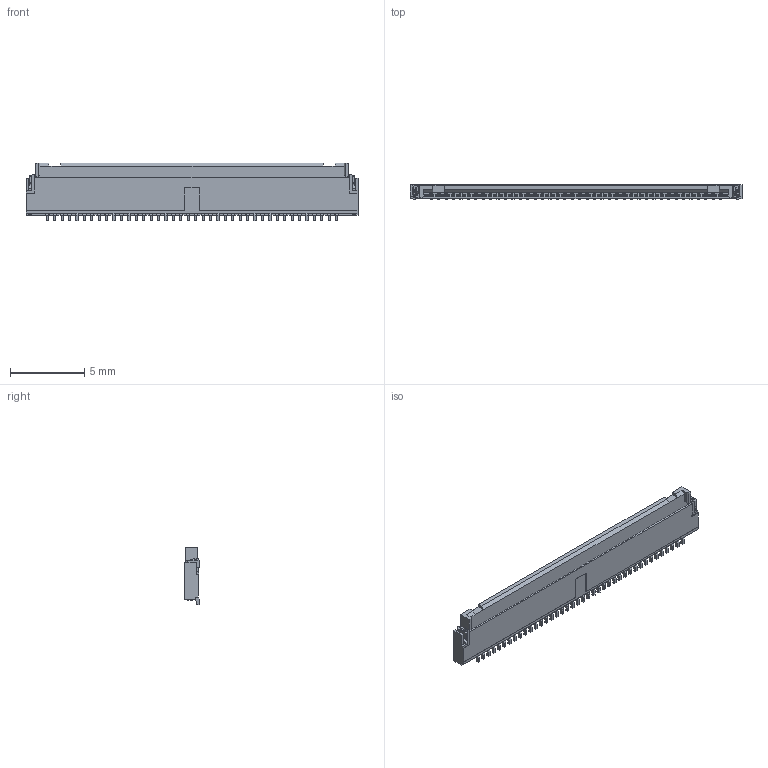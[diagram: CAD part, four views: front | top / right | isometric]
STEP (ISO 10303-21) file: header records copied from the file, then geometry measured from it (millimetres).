
FILE_DESCRIPTION((''),'2;1');
FILE_NAME('40','2022-09-26T',('k41758'),(''),'PRO/ENGINEER BY PARAMETRIC TECHNOLOGY CORPORATION, 2009360','PRO/ENGINEER BY PARAMETRIC TECHNOLOGY CORPORATION, 2009360','');
FILE_SCHEMA(('CONFIG_CONTROL_DESIGN'));
Products named in the file (1): 40
Bounding box: 22.37 x 0.96 x 3.85 mm (x, y, z)
Volume: 42.7 mm3; surface area: 474.4 mm2
Topology: 2 solids, 2 shells, 3981 faces, 12928 edges, 8672 vertices
Faces by surface type: plane 2598, cylinder 1383
Entity records: 141845 total; most frequent: ORIENTED_EDGE 25520, CARTESIAN_POINT 25456, DIRECTION 23748, EDGE_CURVE 12760, VECTOR 9960, LINE 9960, VERTEX_POINT 8336, AXIS2_PLACEMENT_3D 6894
